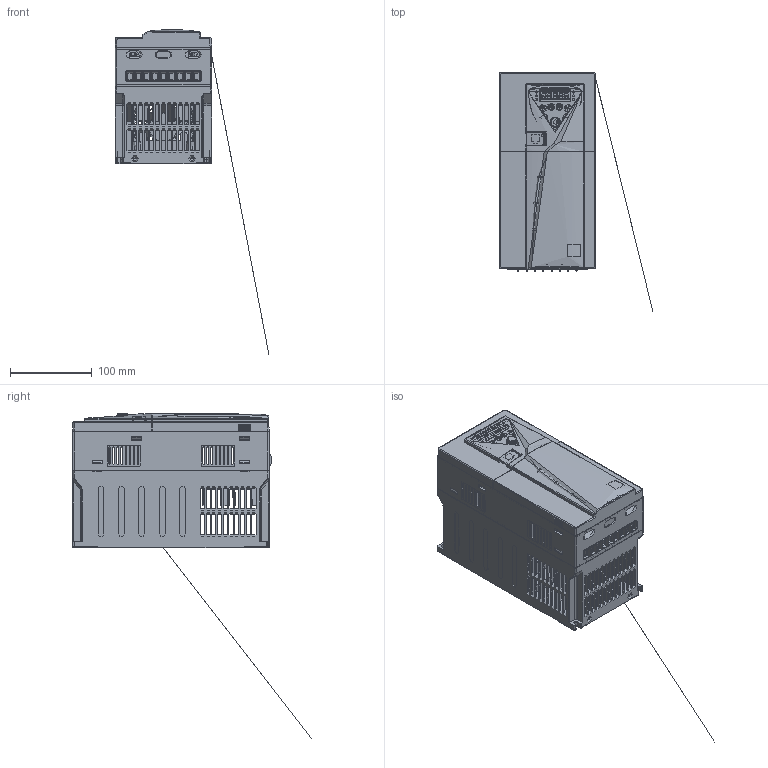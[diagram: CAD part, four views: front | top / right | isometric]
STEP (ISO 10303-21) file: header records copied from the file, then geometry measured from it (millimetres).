
FILE_DESCRIPTION (( 'STEP AP203' ), '1' );
FILE_NAME ('Ïðåîáðàçîâàòåëü ÷àñòîòû _ INVENT-G11-4B.STEP', '2025-07-22T11:42:20', ( '' ), ( '' ), 'SwSTEP 2.0', 'SolidWorks 2021', '' );
FILE_SCHEMA (( 'CONFIG_CONTROL_DESIGN' ));
Length unit declared in the file: millimetre
Products named in the file (47): 扻豵鵨 蚝 B1; 6x6x83; Êðûøêà B1; Ïàíåëü ñ êíîïêàìè; EU10-09-10.16-01_5; 抔樦憵 4x4.8x10; Êðûøêà êîðïóñà B1; EU10-09-10.16-01_8; Äíèùå; Jumper; Êîíòàêò 4x4.8x19_1; Êîííåêòîð 22PL EEX 2x11x2.54x41; HF46F; RL508-15A-3P; Ñòîéêà M3õ41+6; Âåíòèëÿòîð 80õ80õ25; EU10-09-10.16-01_7; ﾇ琥韲 4x4.8x10_1; 扻豵鵨 B1; Ïðåîáðàçîâàòåëü ÷àñòîòû _ INVENT-G11-4B; EU10-09-10.16-01_3; Îñíîâà ïëàòû óïðàâëåíèÿ; Êîíòàêò 4x4.8x10; Êðûøêà êëåìì B1; EU10-09-10.16-01_4; EU10-09-10.16-01; Ïëàòà óïðàâëåíèÿ; Îñíîâà ïëàòû ñèëîâîé B1; RL508-15A-2P; 26PL; EU10-09-10.16-01_1; WH09-103-15; 羊铋赅 󊅚2+6; RJ45-8; ﾇ琥韲 4x4.8x19; Êðûøêà âåíòèÿëòîðà B1; Ðåãóëÿòîð; EU10-09-10.16-01_6; Äèñïëåé; EU10-09-10.16-01_2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
Assembly tree (64 placements, depth 6):
  Ïðåîáðàçîâàòåëü ÷àñòîòû _ INVENT-G11-4B
    扻豵鵨 B1
    Âåíòèëÿòîð 80õ80õ25
    Êðûøêà âåíòèÿëòîðà B1
    Ïëàòà ñèëîâàÿ B1
      Îñíîâà ïëàòû ñèëîâîé B1
      Êîííåêòîð 22PL EEX 2x11x2.54x41
      EU10-09-10.16-01
        EU10-09-10.16-01
        EU10-09-10.16-01_5
        EU10-09-10.16-01_2
        EU10-09-10.16-01_8
        EU10-09-10.16-01_6
        EU10-09-10.16-01_4
        EU10-09-10.16-01_1
        EU10-09-10.16-01_7
        EU10-09-10.16-01_3
    Ñòîéêà M3õ41+6
    羊铋赅 󊅚2+6  x2
    扻豵鵨 蚝 B1
    Äíèùå
    Ïëàòà óïðàâëåíèÿ
      Îñíîâà ïëàòû óïðàâëåíèÿ
      RL508-15A-8P
        RL508-15A-3P  x2
          RL508-15A-3P
          抔樦憵 4x4.8x10
            ﾇ琥韲 4x4.8x10_1
            Êîíòàêò 4x4.8x10
          抔樦憵 4x4.8x19
            ﾇ琥韲 4x4.8x19
            Êîíòàêò 4x4.8x19_1
        RL508-15A-2P
          RL508-15A-2P
          抔樦憵 4x4.8x10  x2
            ﾇ琥韲 4x4.8x10_1
            Êîíòàêò 4x4.8x10
          抔樦憵 4x4.8x19  x2
            ﾇ琥韲 4x4.8x19
            Êîíòàêò 4x4.8x19_1
      WH09-103-15
      RJ45-8
      26PL
      Äèñïëåé
      Jumper  x4
      HF46F
      6x6x83  x6
    Êðûøêà B1
      Êðûøêà êîðïóñà B1
      Êðûøêà êëåìì B1
      ч蜱齁罻 RJ45
      Ïàíåëü ñ êíîïêàìè
      Ðåãóëÿòîð
Bounding box: 187.87 x 292.01 x 398.2 mm (x, y, z)
Topology: 63 solids, 114 shells, 12286 faces, 33483 edges, 21877 vertices
Faces by surface type: plane 8553, cylinder 2360, bspline 843, cone 336, torus 175, sphere 19
Full cylindrical faces by diameter (mm): 1 x8, 1.2 x8, 2 x2
Entity records: 345160 total; most frequent: CARTESIAN_POINT 96096, ORIENTED_EDGE 53852, DIRECTION 44920, EDGE_CURVE 26928, VECTOR 19830, LINE 19830, VERTEX_POINT 17598, AXIS2_PLACEMENT_3D 12545
